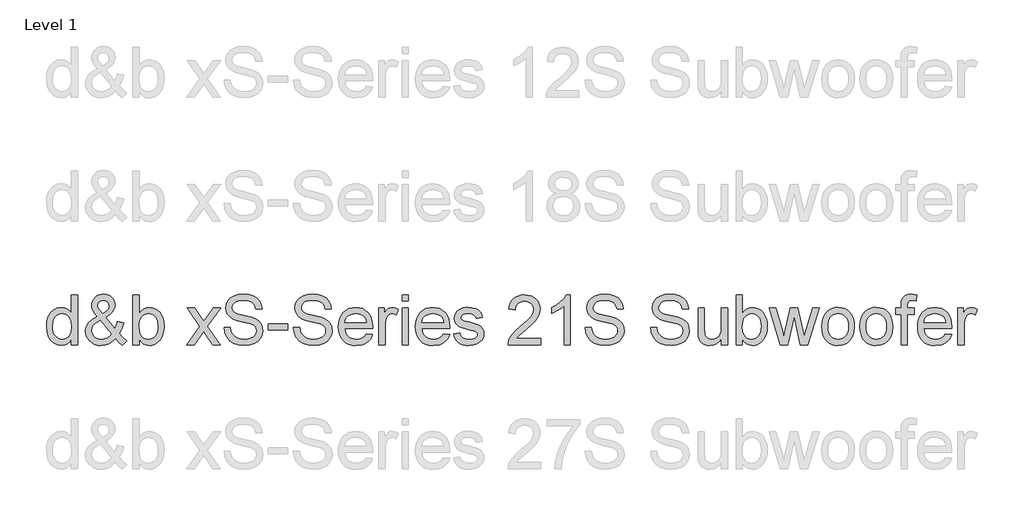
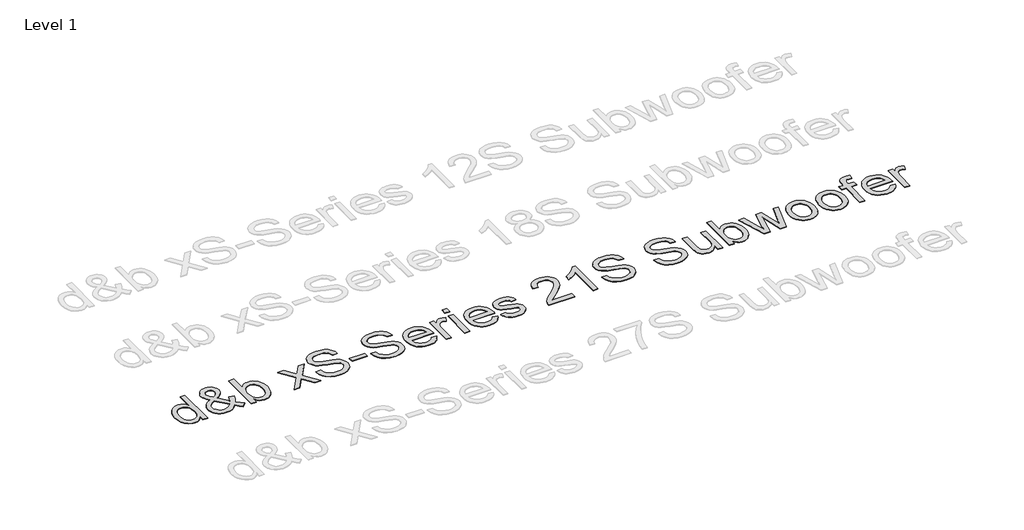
# One storey, part 21 of 55: 1 proxy.
"""IFC4 building model written with IfcOpenShell, lengths in millimetres."""

from ifc_helpers import new_model, si_unit, origin, origin_with_axes, place, context, project, spatial, polyline, outline, extrude, element, save

model = new_model("IFC4")

# Units and contexts
model_context = context("Model", 3, world=origin())
ifc_project = project(units=[si_unit("LENGTHUNIT", "METRE", prefix="MILLI")], contexts=[model_context])

# Site, building, storey
site = spatial("IfcSite", under=ifc_project)
building = spatial("IfcBuilding", under=site)
storey = spatial("IfcBuildingStorey", under=building, Name="Level 1", Elevation=0.0)

# Proxy
placement = place(None, origin())
element("IfcBuildingElementProxy", 1, Name="400mm Arial", ObjectType="400mm Arial", at=placement, inside=storey, context=model_context, shape_type="SweptSolid", body=[
    extrude(outline(polyline([(-20879.8211974, -16148.6945164), (-20879.8211974, -16101.3113154), (-20894.8491769, -16124.7883181), (-20913.0532043, -16141.5576057), (-20934.4332796, -16151.6191783), (-20958.9894028, -16154.9730358), (-20991.4611202, -16150.1169935), (-21021.1859854, -16135.5488665), (-21046.3491139, -16112.2864616), (-21065.1356211, -16081.3475858), (-21076.8342686, -16043.9830379), (-21080.7338177, -16001.4436165), (-21077.1408369, -15959.4314926), (-21066.3618945, -15921.4905962), (-21048.4092531, -15889.7791682), (-21023.2951755, -15866.4554497), (-20992.9203855, -15852.1080519), (-20959.1856065, -15847.325586), (-20934.6110892, -15850.7468885), (-20912.8815261, -15861.0107962), (-20894.4629008, -15876.7438829), (-20879.8211974, -15896.5727224), (-20879.8211974, -15746.8692758), (-20829.5930424, -15746.8692758), (-20829.5930424, -16148.6945164), (-20879.8211974, -16148.6945164)]), holes=[polyline([(-21030.5056627, -16001.2474128), (-21029.089317, -16025.6042665), (-21024.8402799, -16046.6808392), (-21017.7585515, -16064.4771307), (-21007.8441318, -16078.9931411), (-20983.1469871, -16098.3069458), (-20969.2717046, -16103.135397), (-20954.3786151, -16104.7448807), (-20939.415015, -16103.2089734), (-20925.6225058, -16098.6012514), (-20901.5507606, -16080.1703635), (-20892.0440767, -16066.2613584), (-20885.2535882, -16049.1088603), (-20879.8211974, -16005.0733855), (-20885.3516901, -15956.9298951), (-20892.2648059, -15938.3947739), (-20901.9431681, -15923.5507354), (-20913.6448812, -15912.1770504), (-20926.6280499, -15904.0529896), (-20940.8926743, -15899.1785532), (-20956.4387543, -15897.5537411), (-20971.6261493, -15899.1141738), (-20985.5014319, -15903.7954722), (-20998.064602, -15911.5976362), (-21009.3156597, -15922.5206658), (-21018.586286, -15936.8036843), (-21025.2081619, -15954.6858149), (-21030.5056627, -16001.2474128)])]), origin_with_axes(), (0.0, 0.0, 1.0), 5.0),
    extrude(outline(polyline([(-20523.809528, -16099.0549725), (-20549.3405384, -16123.5191252), (-20577.0788409, -16140.99352), (-20607.0734862, -16151.4781569), (-20639.3735254, -16154.9730358), (-20668.6814577, -16152.3855991), (-20694.8010793, -16144.623289), (-20717.7323904, -16131.6861055), (-20737.4753908, -16113.5740486), (-20750.308341, -16096.2038871), (-20759.4747341, -16077.8404442), (-20764.9745699, -16058.4837198), (-20766.8078485, -16038.1337141), (-20760.9094739, -16002.9396699), (-20743.2143499, -15971.3263438), (-20713.796053, -15943.3182613), (-20672.7281596, -15918.9399477), (-20694.6416638, -15890.5885086), (-20707.7995765, -15868.1231814), (-20714.3846642, -15848.9442668), (-20716.5796934, -15830.4520651), (-20714.8506481, -15812.8979626), (-20709.6635119, -15796.5333452), (-20701.018285, -15781.3582129), (-20688.9149674, -15767.3725657), (-20674.1935562, -15755.6555241), (-20657.6940487, -15747.2862088), (-20639.4164449, -15742.2646195), (-20619.3607448, -15740.5907564), (-20600.212487, -15742.1910431), (-20582.8913764, -15746.9919032), (-20567.397413, -15754.9933366), (-20553.7305969, -15766.1953433), (-20542.5715097, -15779.6414302), (-20534.6007332, -15794.3751041), (-20529.8182672, -15810.396365), (-20528.2241119, -15827.7052129), (-20532.9452642, -15855.68877), (-20547.108721, -15881.563137), (-20570.7144823, -15905.3283139), (-20603.7625482, -15926.9843007), (-20531.069066, -16017.5323224), (-20518.6837055, -15991.6579554), (-20509.3885538, -15961.9085647), (-20459.1603987, -15972.7978718), (-20474.6114425, -16019.3226815), (-20494.6732739, -16055.4977443), (-20466.1256311, -16088.8033276), (-20434.0463211, -16116.3209009), (-20471.7174374, -16154.9730358), (-20497.3465498, -16131.52669), (-20523.809528, -16099.0549725)]), holes=[polyline([(-20557.4584678, -16062.8553842), (-20647.1235727, -15950.9211558), (-20681.3733865, -15972.7733463), (-20702.305872, -15993.0068561), (-20713.0112381, -16012.3329235), (-20716.5796934, -16031.4627873), (-20711.6991256, -16055.1543878), (-20697.0574222, -16079.7289051), (-20686.2784798, -16090.6733944), (-20673.4639236, -16098.4908868), (-20658.6137537, -16103.1813823), (-20641.7279702, -16104.7448807), (-20619.0051256, -16101.8263502), (-20595.5710425, -16093.0707588), (-20574.1480476, -16079.6798541), (-20557.4584678, -16062.8553842)]), polyline([(-20629.1709314, -15895.2973981), (-20602.9041569, -15878.6323438), (-20587.8700461, -15864.1500559), (-20580.8067117, -15850.0601755), (-20578.452267, -15834.5723435), (-20581.5547385, -15817.0243723), (-20590.862153, -15803.0325938), (-20604.829406, -15793.8723321), (-20621.9113933, -15790.8189115), (-20639.3612626, -15793.8478066), (-20653.6473468, -15802.9344919), (-20663.1754905, -15816.3867102), (-20666.3515384, -15832.5122043), (-20662.0350563, -15850.9063041), (-20648.9875082, -15871.360543), (-20629.1709314, -15895.2973981)])]), origin_with_axes(), (0.0, 0.0, 1.0), 5.0),
    extrude(outline(polyline([(-20333.590011, -16148.6945164), (-20383.8181661, -16148.6945164), (-20383.8181661, -15746.8692758), (-20333.590011, -15746.8692758), (-20333.590011, -15895.8860093), (-20317.0721094, -15874.6408241), (-20298.4204923, -15859.4656918), (-20277.6351595, -15850.3606124), (-20254.7161112, -15847.325586), (-20228.8417442, -15850.0601755), (-20204.3898543, -15858.263944), (-20182.758393, -15871.4218567), (-20165.3453119, -15889.0188788), (-20151.6968898, -15910.883332), (-20141.3594058, -15936.8435381), (-20134.8478945, -15965.8203766), (-20132.6773907, -15996.734727), (-20134.9245365, -16032.4070178), (-20141.6659741, -16063.7873519), (-20152.9017034, -16090.8757295), (-20168.6317244, -16113.6721505), (-20187.5132678, -16131.7412878), (-20208.2035643, -16144.6478145), (-20230.702614, -16152.3917305), (-20255.0104168, -16154.9730358), (-20278.6836232, -16151.6437038), (-20299.671291, -16141.6557076), (-20317.9734203, -16125.0090473), (-20333.590011, -16101.7037229), (-20333.590011, -16148.6945164)]), holes=[polyline([(-20333.590011, -15999.0891717), (-20330.1564457, -16040.9786682), (-20319.8557498, -16069.3301073), (-20307.6849872, -16084.8240707), (-20293.5399244, -16095.8911874), (-20277.4205617, -16102.5314574), (-20259.3268989, -16104.7448807), (-20244.3050508, -16103.1139372), (-20230.3377977, -16098.2211067), (-20217.4251396, -16090.0663891), (-20205.5670767, -16078.6497845), (-20195.6526569, -16064.0019498), (-20188.5709285, -16046.1535416), (-20184.3218914, -16025.1045601), (-20182.9055458, -16000.8550053), (-20188.3379366, -15954.8942814), (-20195.1284251, -15937.1010555), (-20204.6351089, -15922.7659205), (-20216.0670419, -15911.735592), (-20228.6332778, -15903.8567859), (-20242.3338164, -15899.1295023), (-20257.1686579, -15897.5537411), (-20272.190506, -15899.1846846), (-20286.1577591, -15904.0775151), (-20299.0704171, -15912.2322327), (-20310.9284801, -15923.6488372), (-20320.8428999, -15938.1495192), (-20327.9246283, -15955.556469), (-20332.1736653, -15975.8696865), (-20333.590011, -15999.0891717)])]), origin_with_axes(), (0.0, 0.0, 1.0), 5.0),
    extrude(outline(polyline([(-19950.6003285, -16148.6945164), (-19843.2768878, -16000.2663941), (-19944.3218092, -15853.6041054), (-19884.0872638, -15853.6041054), (-19835.3306367, -15924.3355503), (-19812.4729021, -15957.5920827), (-19792.6563253, -15930.3197641), (-19737.1306695, -15853.6041054), (-19676.6999204, -15853.6041054), (-19782.8461387, -16000.364496), (-19680.623995, -16148.6945164), (-19740.9566422, -16148.6945164), (-19802.5646137, -16059.4218189), (-19813.7482263, -16043.0388074), (-19890.1695795, -16148.6945164), (-19950.6003285, -16148.6945164)])), origin_with_axes(), (0.0, 0.0, 1.0), 5.0),
    extrude(outline(polyline([(-19649.2313981, -16010.56709), (-19599.003243, -16010.56709), (-19593.2397584, -16038.4402825), (-19582.8164352, -16060.844296), (-19566.556051, -16078.6252591), (-19543.2813835, -16092.6293004), (-19514.8318425, -16101.7159856), (-19483.0468381, -16104.7448807), (-19455.063281, -16102.4517496), (-19430.5623402, -16095.5723563), (-19410.7089752, -16084.6830493), (-19396.6681457, -16070.3601769), (-19388.3172244, -16053.9158517), (-19385.533584, -16036.6621862), (-19387.6182486, -16019.849979), (-19393.8722425, -16005.3186402), (-19406.5764341, -15992.9210169), (-19428.0116917, -15982.5099565), (-19501.1466323, -15963.3310418), (-19549.1552327, -15950.639113), (-19579.8733793, -15938.5603208), (-19604.8770922, -15921.6622745), (-19622.5967416, -15901.1835101), (-19633.1549549, -15877.565486), (-19636.6743593, -15851.2496606), (-19632.3210891, -15821.8313637), (-19619.2612782, -15794.3996296), (-19597.8382834, -15771.1494875), (-19568.395461, -15754.2759667), (-19533.054264, -15744.012059), (-19493.9361452, -15740.5907564), (-19451.5561394, -15744.1714745), (-19414.4736342, -15754.9136288), (-19384.013005, -15772.59649), (-19361.4986269, -15796.999329), (-19347.249331, -15826.6015669), (-19341.5839483, -15859.8826247), (-19391.8121033, -15859.8826247), (-19401.0336787, -15829.9125049), (-19409.3968627, -15818.0544419), (-19420.2616443, -15808.2810436), (-19450.3053406, -15795.1844445), (-19491.9741079, -15790.8189115), (-19534.6238939, -15795.1353936), (-19550.9271976, -15800.5309962), (-19563.8827752, -15808.0848398), (-19580.805347, -15827.1411272), (-19586.4462043, -15849.7781326), (-19582.4485532, -15869.0796746), (-19570.4556002, -15884.6042948), (-19542.1041611, -15898.4857088), (-19488.4424407, -15912.6614283), (-19433.0639377, -15926.1259093), (-19399.5621507, -15937.8736077), (-19370.9286687, -15956.0960292), (-19350.9526764, -15978.5858819), (-19339.2172408, -16005.097911), (-19335.3054289, -16035.3868619), (-19339.805852, -16066.3502632), (-19353.3071212, -16095.4742545), (-19375.2574136, -16120.5392811), (-19405.1049061, -16139.3257883), (-19440.9979261, -16151.0612239), (-19481.0848008, -16154.9730358), (-19530.2951491, -16150.7546556), (-19570.7989567, -16138.099515), (-19603.0622077, -16116.958563), (-19627.5508858, -16087.2827487), (-19643.2717098, -16051.1322113), (-19649.2313981, -16010.56709)])), origin_with_axes(), (0.0, 0.0, 1.0), 5.0),
    extrude(outline(polyline([(-19291.3557932, -16029.4026481), (-19291.3557932, -15979.174493), (-19134.3928086, -15979.174493), (-19134.3928086, -16029.4026481), (-19291.3557932, -16029.4026481)])), origin_with_axes(), (0.0, 0.0, 1.0), 5.0),
    extrude(outline(polyline([(-19090.4431729, -16010.56709), (-19040.2150178, -16010.56709), (-19034.4515332, -16038.4402825), (-19024.02821, -16060.844296), (-19007.7678258, -16078.6252591), (-18984.4931583, -16092.6293004), (-18956.0436173, -16101.7159856), (-18924.2586129, -16104.7448807), (-18896.2750558, -16102.4517496), (-18871.774115, -16095.5723563), (-18851.9207499, -16084.6830493), (-18837.8799205, -16070.3601769), (-18829.5289992, -16053.9158517), (-18826.7453587, -16036.6621862), (-18828.8300234, -16019.849979), (-18835.0840173, -16005.3186402), (-18847.7882089, -15992.9210169), (-18869.2234665, -15982.5099565), (-18942.3584071, -15963.3310418), (-18990.3670075, -15950.639113), (-19021.0851541, -15938.5603208), (-19046.088867, -15921.6622745), (-19063.8085164, -15901.1835101), (-19074.3667297, -15877.565486), (-19077.8861341, -15851.2496606), (-19073.5328638, -15821.8313637), (-19060.473053, -15794.3996296), (-19039.0500582, -15771.1494875), (-19009.6072358, -15754.2759667), (-18974.2660388, -15744.012059), (-18935.14792, -15740.5907564), (-18892.7679141, -15744.1714745), (-18855.685409, -15754.9136288), (-18825.2247798, -15772.59649), (-18802.7104017, -15796.999329), (-18788.4611058, -15826.6015669), (-18782.7957231, -15859.8826247), (-18833.0238781, -15859.8826247), (-18842.2454535, -15829.9125049), (-18850.6086375, -15818.0544419), (-18861.4734191, -15808.2810436), (-18891.5171154, -15795.1844445), (-18933.1858827, -15790.8189115), (-18975.8356687, -15795.1353936), (-18992.1389724, -15800.5309962), (-19005.09455, -15808.0848398), (-19022.0171218, -15827.1411272), (-19027.657979, -15849.7781326), (-19023.660328, -15869.0796746), (-19011.667375, -15884.6042948), (-18983.3159359, -15898.4857088), (-18929.6542155, -15912.6614283), (-18874.2757125, -15926.1259093), (-18840.7739255, -15937.8736077), (-18812.1404435, -15956.0960292), (-18792.1644512, -15978.5858819), (-18780.4290156, -16005.097911), (-18776.5172037, -16035.3868619), (-18781.0176267, -16066.3502632), (-18794.518896, -16095.4742545), (-18816.4691883, -16120.5392811), (-18846.3166809, -16139.3257883), (-18882.2097009, -16151.0612239), (-18922.2965756, -16154.9730358), (-18971.5069238, -16150.7546556), (-19012.0107315, -16138.099515), (-19044.2739825, -16116.958563), (-19068.7626606, -16087.2827487), (-19084.4834846, -16051.1322113), (-19090.4431729, -16010.56709)])), origin_with_axes(), (0.0, 0.0, 1.0), 5.0),
    extrude(outline(polyline([(-18500.850962, -16060.795245), (-18451.6038255, -16067.0737644), (-18459.1546035, -16086.7983707), (-18469.3480004, -16104.180795), (-18482.1840164, -16119.2210372), (-18497.6626513, -16131.9190974), (-18515.6244897, -16142.0051955), (-18535.9101161, -16149.2095512), (-18583.4527326, -16154.9730358), (-18614.618469, -16152.4867667), (-18642.3874282, -16145.0279592), (-18666.7596104, -16132.5966135), (-18687.7350155, -16115.1927294), (-18704.602405, -16093.300685), (-18716.6505403, -16067.4048582), (-18723.8794215, -16037.5052491), (-18726.2890486, -16003.6018575), (-18723.8548961, -15968.5488348), (-18716.5524385, -15937.6528785), (-18704.3816758, -15910.9139888), (-18687.342608, -15888.3321657), (-18666.4223852, -15870.3917871), (-18642.6081574, -15857.5772309), (-18615.8999246, -15849.8884972), (-18586.2976867, -15847.325586), (-18557.6488763, -15849.8823658), (-18531.7407868, -15857.5527054), (-18508.5734182, -15870.3366048), (-18488.1467704, -15888.2340638), (-18471.472519, -15910.766836), (-18459.5623394, -15937.4566748), (-18452.4162316, -15968.3035801), (-18450.0341957, -16003.3075519), (-18450.3285013, -16016.8456094), (-18676.0608935, -16016.8456094), (-18673.1515601, -16036.8890467), (-18667.3666157, -16054.4431493), (-18658.7060604, -16069.507917), (-18647.1698942, -16082.0833498), (-18633.3957791, -16091.9977696), (-18618.0213774, -16099.079498), (-18582.4717139, -16104.7448807), (-18555.7389556, -16102.1206558), (-18533.2245775, -16094.2479811), (-18514.9285796, -16080.6363473), (-18500.850962, -16060.795245)]), holes=[polyline([(-18676.0608935, -15966.6174543), (-18500.2623508, -15966.6174543), (-18507.0559049, -15940.0808997), (-18520.3732332, -15921.0981887), (-18534.0707061, -15910.7974929), (-18549.65664, -15903.439853), (-18567.1310348, -15899.025269), (-18586.4938904, -15897.5537411), (-18620.3512967, -15902.2503679), (-18648.3471166, -15916.3402483), (-18667.8080741, -15938.3028034), (-18676.0608935, -15966.6174543)])]), origin_with_axes(), (0.0, 0.0, 1.0), 5.0),
    extrude(outline(polyline([(-18399.8060406, -16148.6945164), (-18399.8060406, -15853.6041054), (-18355.8564049, -15853.6041054), (-18355.8564049, -15897.2594355), (-18339.6205462, -15871.9491542), (-18324.6600117, -15857.0376707), (-18309.6504263, -15849.7536071), (-18293.2674148, -15847.325586), (-18268.2514391, -15851.2006097), (-18242.843056, -15862.8256807), (-18259.618475, -15907.8544369), (-18277.2768108, -15900.128915), (-18294.9351465, -15897.5537411), (-18309.9324692, -15900.0308132), (-18323.3356365, -15907.4620295), (-18334.1636299, -15919.2833042), (-18341.4354307, -15934.9305518), (-18347.5422718, -15962.9876853), (-18349.5778855, -15993.5954673), (-18349.5778855, -16148.6945164), (-18399.8060406, -16148.6945164)])), origin_with_axes(), (0.0, 0.0, 1.0), 5.0),
    extrude(outline(polyline([(-18211.4504591, -15797.0974309), (-18211.4504591, -15746.8692758), (-18161.222304, -15746.8692758), (-18161.222304, -15797.0974309), (-18211.4504591, -15797.0974309)])), origin_with_axes(), (0.0, 0.0, 1.0), 5.0),
    extrude(outline(polyline([(-18211.4504591, -16148.6945164), (-18211.4504591, -15853.6041054), (-18161.222304, -15853.6041054), (-18161.222304, -16148.6945164), (-18211.4504591, -16148.6945164)])), origin_with_axes(), (0.0, 0.0, 1.0), 5.0),
    extrude(outline(polyline([(-17879.2775429, -16060.795245), (-17830.0304065, -16067.0737644), (-17837.5811844, -16086.7983707), (-17847.7745814, -16104.180795), (-17860.6105973, -16119.2210372), (-17876.0892323, -16131.9190974), (-17894.0510707, -16142.0051955), (-17914.336697, -16149.2095512), (-17961.8793136, -16154.9730358), (-17993.0450499, -16152.4867667), (-18020.8140092, -16145.0279592), (-18045.1861914, -16132.5966135), (-18066.1615965, -16115.1927294), (-18083.0289859, -16093.300685), (-18095.0771213, -16067.4048582), (-18102.3060025, -16037.5052491), (-18104.7156295, -16003.6018575), (-18102.281477, -15968.5488348), (-18094.9790194, -15937.6528785), (-18082.8082567, -15910.9139888), (-18065.769189, -15888.3321657), (-18044.8489662, -15870.3917871), (-18021.0347384, -15857.5772309), (-17994.3265055, -15849.8884972), (-17964.7242676, -15847.325586), (-17936.0754573, -15849.8823658), (-17910.1673678, -15857.5527054), (-17886.9999991, -15870.3366048), (-17866.5733513, -15888.2340638), (-17849.8990999, -15910.766836), (-17837.9889203, -15937.4566748), (-17830.8428126, -15968.3035801), (-17828.4607766, -16003.3075519), (-17828.7550822, -16016.8456094), (-18054.4874745, -16016.8456094), (-18051.578141, -16036.8890467), (-18045.7931967, -16054.4431493), (-18037.1326413, -16069.507917), (-18025.5964751, -16082.0833498), (-18011.8223601, -16091.9977696), (-17996.4479584, -16099.079498), (-17960.8982949, -16104.7448807), (-17934.1655366, -16102.1206558), (-17911.6511585, -16094.2479811), (-17893.3551606, -16080.6363473), (-17879.2775429, -16060.795245)]), holes=[polyline([(-18054.4874745, -15966.6174543), (-17878.6889317, -15966.6174543), (-17885.4824859, -15940.0808997), (-17898.7998141, -15921.0981887), (-17912.4972871, -15910.7974929), (-17928.0832209, -15903.439853), (-17945.5576157, -15899.025269), (-17964.9204714, -15897.5537411), (-17998.7778777, -15902.2503679), (-18026.7736975, -15916.3402483), (-18046.234655, -15938.3028034), (-18054.4874745, -15966.6174543)])]), origin_with_axes(), (0.0, 0.0, 1.0), 5.0),
    extrude(outline(polyline([(-17797.0681797, -16060.795245), (-17746.8400246, -16054.5167257), (-17738.918299, -16076.0010342), (-17723.5898825, -16091.7954345), (-17700.7566734, -16101.5075192), (-17670.3205696, -16104.7448807), (-17640.2523479, -16101.7772993), (-17619.1113959, -16092.874555), (-17606.6034081, -16079.9741597), (-17602.4340788, -16065.0136253), (-17606.6279335, -16052.2113318), (-17619.2094978, -16042.4501962), (-17670.9091808, -16028.1273239), (-17746.545719, -16003.5528066), (-17765.6878455, -15991.2042343), (-17779.5569967, -15974.858011), (-17787.9814944, -15955.556469), (-17790.7896603, -15934.3419406), (-17788.5333174, -15914.880983), (-17781.7642887, -15896.9160789), (-17771.0957109, -15881.1584668), (-17757.1407205, -15868.3193852), (-17725.2085633, -15853.4569526), (-17704.3251287, -15848.8584276), (-17681.9946916, -15847.325586), (-17649.302245, -15849.7903953), (-17620.8772295, -15857.1848234), (-17598.0194949, -15868.785369), (-17582.0288908, -15883.8685308), (-17571.4338893, -15903.5502176), (-17564.7629625, -15928.946338), (-17614.9911176, -15935.2248574), (-17621.3309506, -15919.4181943), (-17633.8757267, -15907.5110804), (-17652.748073, -15900.0430759), (-17678.070617, -15897.5537411), (-17706.9125654, -15899.9327113), (-17726.140531, -15907.069622), (-17736.9562617, -15917.3703179), (-17740.5615053, -15929.2406436), (-17734.5772915, -15943.8578215), (-17715.8398352, -15954.9433323), (-17672.5769125, -15965.6364356), (-17598.8533607, -15989.2789852), (-17579.3801404, -16000.5852252), (-17564.6158097, -16016.0607944), (-17555.3083952, -16035.7547439), (-17552.2059237, -16059.7161245), (-17555.8479555, -16084.4868455), (-17566.7740507, -16107.7860386), (-17584.5672766, -16127.7865564), (-17608.8107, -16142.6612517), (-17638.0941069, -16151.8950898), (-17671.0072827, -16154.9730358), (-17698.040478, -16153.4892451), (-17721.6523707, -16149.037873), (-17741.8429609, -16141.6189194), (-17758.6122485, -16131.2323844), (-17772.3097214, -16117.9273189), (-17783.2848676, -16101.7527738), (-17791.5376871, -16082.7087492), (-17797.0681797, -16060.795245)])), origin_with_axes(), (0.0, 0.0, 1.0), 5.0),
    extrude(outline(polyline([(-17093.8740087, -16098.4663614), (-17093.8740087, -16148.6945164), (-17357.5718228, -16148.6945164), (-17356.4681768, -16131.0116552), (-17352.1762202, -16114.0645579), (-17339.778597, -16087.0007058), (-17321.6174891, -16060.7461941), (-17295.3629774, -16033.2654091), (-17258.6851425, -16002.522737), (-17204.4961246, -15954.3792466), (-17172.0121444, -15918.8418458), (-17155.7885485, -15889.9998974), (-17150.3806831, -15861.9427639), (-17155.4942429, -15836.7918982), (-17170.8349221, -15815.8839381), (-17194.4161579, -15801.7940577), (-17224.2513878, -15797.0974309), (-17255.582671, -15801.6836931), (-17279.9241964, -15815.4424797), (-17295.6327576, -15837.2946702), (-17301.0651483, -15866.1611441), (-17351.2933034, -15859.8826247), (-17346.9737557, -15833.9530755), (-17339.1164094, -15811.2976759), (-17327.7212646, -15791.9164261), (-17312.7883213, -15775.8093261), (-17294.6609359, -15763.1480541), (-17273.6824652, -15754.1042884), (-17249.8529089, -15748.678029), (-17223.1722672, -15746.8692758), (-17196.2525022, -15748.8803641), (-17172.2941873, -15754.9136288), (-17151.2973224, -15764.96907), (-17133.2619076, -15779.0466877), (-17118.7765541, -15796.1041495), (-17108.4298729, -15815.0991232), (-17102.2218643, -15836.0316087), (-17100.152528, -15858.9016061), (-17102.3843455, -15882.9243004), (-17109.0797978, -15906.5300617), (-17120.9623862, -15930.5404933), (-17138.7556121, -15955.7771982), (-17167.1193139, -15985.9067336), (-17210.7133303, -16024.5956567), (-17268.495329, -16072.9108254), (-17291.1568599, -16098.4663614), (-17093.8740087, -16098.4663614)])), origin_with_axes(), (0.0, 0.0, 1.0), 5.0),
    extrude(outline(polyline([(-16855.2902721, -16148.6945164), (-16905.5184271, -16148.6945164), (-16905.5184271, -15835.5533621), (-16926.4877009, -15852.5127221), (-16953.0978318, -15869.4475566), (-17005.9747373, -15894.8068888), (-17005.9747373, -15847.325586), (-16966.5255247, -15825.8658029), (-16932.3492873, -15800.3347925), (-16905.4080625, -15773.1851012), (-16887.6638876, -15746.8692758), (-16855.2902721, -15746.8692758), (-16855.2902721, -16148.6945164)])), origin_with_axes(), (0.0, 0.0, 1.0), 5.0),
    extrude(outline(polyline([(-16735.9984038, -16010.56709), (-16685.7702487, -16010.56709), (-16680.0067641, -16038.4402825), (-16669.5834409, -16060.844296), (-16653.3230567, -16078.6252591), (-16630.0483891, -16092.6293004), (-16601.5988482, -16101.7159856), (-16569.8138438, -16104.7448807), (-16541.8302867, -16102.4517496), (-16517.3293458, -16095.5723563), (-16497.4759808, -16084.6830493), (-16483.4351513, -16070.3601769), (-16475.08423, -16053.9158517), (-16472.3005896, -16036.6621862), (-16474.3852543, -16019.849979), (-16480.6392482, -16005.3186402), (-16493.3434397, -15992.9210169), (-16514.7786973, -15982.5099565), (-16587.913638, -15963.3310418), (-16635.9222383, -15950.639113), (-16666.6403849, -15938.5603208), (-16691.6440979, -15921.6622745), (-16709.3637473, -15901.1835101), (-16719.9219606, -15877.565486), (-16723.441365, -15851.2496606), (-16719.0880947, -15821.8313637), (-16706.0282839, -15794.3996296), (-16684.605289, -15771.1494875), (-16655.1624667, -15754.2759667), (-16619.8212697, -15744.012059), (-16580.7031509, -15740.5907564), (-16538.323145, -15744.1714745), (-16501.2406399, -15754.9136288), (-16470.7800107, -15772.59649), (-16448.2656326, -15796.999329), (-16434.0163367, -15826.6015669), (-16428.3509539, -15859.8826247), (-16478.579109, -15859.8826247), (-16487.8006843, -15829.9125049), (-16496.1638684, -15818.0544419), (-16507.02865, -15808.2810436), (-16537.0723462, -15795.1844445), (-16578.7411136, -15790.8189115), (-16621.3908995, -15795.1353936), (-16637.6942033, -15800.5309962), (-16650.6497809, -15808.0848398), (-16667.5723527, -15827.1411272), (-16673.2132099, -15849.7781326), (-16669.2155589, -15869.0796746), (-16657.2226059, -15884.6042948), (-16628.8711668, -15898.4857088), (-16575.2094464, -15912.6614283), (-16519.8309434, -15926.1259093), (-16486.3291564, -15937.8736077), (-16457.6956744, -15956.0960292), (-16437.7196821, -15978.5858819), (-16425.9842464, -16005.097911), (-16422.0724345, -16035.3868619), (-16426.5728576, -16066.3502632), (-16440.0741268, -16095.4742545), (-16462.0244192, -16120.5392811), (-16491.8719118, -16139.3257883), (-16527.7649318, -16151.0612239), (-16567.8518065, -16154.9730358), (-16617.0621547, -16150.7546556), (-16657.5659624, -16138.099515), (-16689.8292134, -16116.958563), (-16714.3178915, -16087.2827487), (-16730.0387154, -16051.1322113), (-16735.9984038, -16010.56709)])), origin_with_axes(), (0.0, 0.0, 1.0), 5.0),
    extrude(outline(polyline([(-16208.6027755, -16010.56709), (-16158.3746204, -16010.56709), (-16152.6111358, -16038.4402825), (-16142.1878126, -16060.844296), (-16125.9274284, -16078.6252591), (-16102.6527609, -16092.6293004), (-16074.2032199, -16101.7159856), (-16042.4182155, -16104.7448807), (-16014.4346584, -16102.4517496), (-15989.9337175, -16095.5723563), (-15970.0803525, -16084.6830493), (-15956.0395231, -16070.3601769), (-15947.6886018, -16053.9158517), (-15944.9049613, -16036.6621862), (-15946.989626, -16019.849979), (-15953.2436199, -16005.3186402), (-15965.9478115, -15992.9210169), (-15987.383069, -15982.5099565), (-16060.5180097, -15963.3310418), (-16108.5266101, -15950.639113), (-16139.2447566, -15938.5603208), (-16164.2484696, -15921.6622745), (-16181.968119, -15901.1835101), (-16192.5263323, -15877.565486), (-16196.0457367, -15851.2496606), (-16191.6924664, -15821.8313637), (-16178.6326556, -15794.3996296), (-16157.2096607, -15771.1494875), (-16127.7668384, -15754.2759667), (-16092.4256414, -15744.012059), (-16053.3075226, -15740.5907564), (-16010.9275167, -15744.1714745), (-15973.8450116, -15754.9136288), (-15943.3843824, -15772.59649), (-15920.8700043, -15796.999329), (-15906.6207084, -15826.6015669), (-15900.9553256, -15859.8826247), (-15951.1834807, -15859.8826247), (-15960.4050561, -15829.9125049), (-15968.7682401, -15818.0544419), (-15979.6330217, -15808.2810436), (-16009.6767179, -15795.1844445), (-16051.3454853, -15790.8189115), (-16093.9952712, -15795.1353936), (-16110.298575, -15800.5309962), (-16123.2541526, -15808.0848398), (-16140.1767244, -15827.1411272), (-16145.8175816, -15849.7781326), (-16141.8199306, -15869.0796746), (-16129.8269776, -15884.6042948), (-16101.4755385, -15898.4857088), (-16047.8138181, -15912.6614283), (-15992.4353151, -15926.1259093), (-15958.9335281, -15937.8736077), (-15930.3000461, -15956.0960292), (-15910.3240538, -15978.5858819), (-15898.5886181, -16005.097911), (-15894.6768063, -16035.3868619), (-15899.1772293, -16066.3502632), (-15912.6784986, -16095.4742545), (-15934.6287909, -16120.5392811), (-15964.4762835, -16139.3257883), (-16000.3693035, -16151.0612239), (-16040.4561782, -16154.9730358), (-16089.6665264, -16150.7546556), (-16130.1703341, -16138.099515), (-16162.4335851, -16116.958563), (-16186.9222632, -16087.2827487), (-16202.6430872, -16051.1322113), (-16208.6027755, -16010.56709)])), origin_with_axes(), (0.0, 0.0, 1.0), 5.0),
    extrude(outline(polyline([(-15637.2575115, -16148.6945164), (-15637.2575115, -16097.975852), (-15655.4308821, -16122.9121199), (-15676.5963595, -16140.7237399), (-15700.7539439, -16151.4107118), (-15727.9036351, -16154.9730358), (-15752.3677878, -16152.4714382), (-15775.1396833, -16144.9666455), (-15794.2450216, -16133.684931), (-15807.7095026, -16119.852568), (-15816.7716624, -16103.0526236), (-15822.6700371, -16082.8681648), (-15825.613093, -16036.1716768), (-15825.613093, -15853.6041054), (-15775.384938, -15853.6041054), (-15775.384938, -16012.5291273), (-15772.3437801, -16063.738301), (-15765.0229284, -16080.8202883), (-15752.4781524, -16093.8065227), (-15735.5433179, -16102.0102912), (-15715.0522907, -16104.7448807), (-15693.3840412, -16101.9489776), (-15673.1137433, -16093.5612681), (-15656.399638, -16080.3543045), (-15645.3999663, -16063.1006389), (-15639.2931252, -16039.4703521), (-15637.2575115, -16007.1335247), (-15637.2575115, -15853.6041054), (-15587.0293564, -15853.6041054), (-15587.0293564, -16148.6945164), (-15637.2575115, -16148.6945164)])), origin_with_axes(), (0.0, 0.0, 1.0), 5.0),
    extrude(outline(polyline([(-15467.7374881, -16148.6945164), (-15517.9656432, -16148.6945164), (-15517.9656432, -15746.8692758), (-15467.7374881, -15746.8692758), (-15467.7374881, -15895.8860093), (-15451.2195865, -15874.6408241), (-15432.5679694, -15859.4656918), (-15411.7826367, -15850.3606124), (-15388.8635884, -15847.325586), (-15362.9892214, -15850.0601755), (-15338.5373314, -15858.263944), (-15316.9058701, -15871.4218567), (-15299.492789, -15889.0188788), (-15285.844367, -15910.883332), (-15275.5068829, -15936.8435381), (-15268.9953716, -15965.8203766), (-15266.8248678, -15996.734727), (-15269.0720137, -16032.4070178), (-15275.8134512, -16063.7873519), (-15287.0491805, -16090.8757295), (-15302.7792015, -16113.6721505), (-15321.6607449, -16131.7412878), (-15342.3510414, -16144.6478145), (-15364.8500911, -16152.3917305), (-15389.1578939, -16154.9730358), (-15412.8311003, -16151.6437038), (-15433.8187682, -16141.6557076), (-15452.1208974, -16125.0090473), (-15467.7374881, -16101.7037229), (-15467.7374881, -16148.6945164)]), holes=[polyline([(-15467.7374881, -15999.0891717), (-15464.3039228, -16040.9786682), (-15454.003227, -16069.3301073), (-15441.8324643, -16084.8240707), (-15427.6874016, -16095.8911874), (-15411.5680388, -16102.5314574), (-15393.474376, -16104.7448807), (-15378.4525279, -16103.1139372), (-15364.4852748, -16098.2211067), (-15351.5726168, -16090.0663891), (-15339.7145538, -16078.6497845), (-15329.800134, -16064.0019498), (-15322.7184056, -16046.1535416), (-15318.4693686, -16025.1045601), (-15317.0530229, -16000.8550053), (-15322.4854137, -15954.8942814), (-15329.2759022, -15937.1010555), (-15338.7825861, -15922.7659205), (-15350.2145191, -15911.735592), (-15362.7807549, -15903.8567859), (-15376.4812935, -15899.1295023), (-15391.316135, -15897.5537411), (-15406.3379831, -15899.1846846), (-15420.3052362, -15904.0775151), (-15433.2178942, -15912.2322327), (-15445.0759572, -15923.6488372), (-15454.990377, -15938.1495192), (-15462.0721054, -15955.556469), (-15466.3211424, -15975.8696865), (-15467.7374881, -15999.0891717)])]), origin_with_axes(), (0.0, 0.0, 1.0), 5.0),
    extrude(outline(polyline([(-15160.9729551, -16148.6945164), (-15251.1285694, -15853.6041054), (-15199.0364788, -15853.6041054), (-15148.0235088, -16025.7728791), (-15132.8177197, -16087.2827487), (-15120.3587828, -16028.029222), (-15079.8427124, -15853.6041054), (-15020.1967783, -15853.6041054), (-14979.6807079, -16027.5387127), (-14968.5951971, -16081.200433), (-14952.7026949, -16024.5956567), (-14901.6897249, -15853.6041054), (-14849.3033288, -15853.6041054), (-14939.7532486, -16148.6945164), (-15000.3802014, -16148.6945164), (-15039.0323364, -15975.6428259), (-15050.2159491, -15921.6867999), (-15099.9535948, -16148.6945164), (-15160.9729551, -16148.6945164)])), origin_with_axes(), (0.0, 0.0, 1.0), 5.0),
    extrude(outline(polyline([(-14827.3285109, -16001.1493109), (-14824.6123155, -15962.932503), (-14816.4637293, -15930.000933), (-14802.8827523, -15902.3546011), (-14783.8693846, -15879.9935072), (-14764.7272581, -15865.7012916), (-14743.5985688, -15855.4925663), (-14720.4833168, -15849.3673311), (-14695.381502, -15847.325586), (-14667.6707907, -15849.8118551), (-14642.6149611, -15857.2706626), (-14620.2140133, -15869.7020083), (-14600.4679472, -15887.1058924), (-14584.3516502, -15908.8937036), (-14572.8400094, -15934.4768306), (-14565.9330249, -15963.8552736), (-14563.6306968, -15997.0290325), (-14567.7019242, -16047.7722224), (-14579.9156064, -16086.3998319), (-14599.9161242, -16115.3276195), (-14627.3478583, -16136.9713435), (-14659.9299404, -16150.4726127), (-14695.381502, -16154.9730358), (-14723.4968835, -16152.4959637), (-14748.7857049, -16145.0647474), (-14771.2479664, -16132.6793869), (-14790.8836679, -16115.3398822), (-14806.8282867, -16093.3405389), (-14818.2173002, -16066.9756626), (-14825.0507082, -16036.2452532), (-14827.3285109, -16001.1493109)]), holes=[polyline([(-14777.1003558, -16001.051209), (-14775.647222, -16025.4141942), (-14771.2878203, -16046.5091609), (-14764.0221509, -16064.3361093), (-14753.8502137, -16078.8950392), (-14741.477116, -16090.2043449), (-14727.6079648, -16098.2824204), (-14712.2427601, -16103.1292656), (-14695.381502, -16104.7448807), (-14678.606083, -16103.1200686), (-14663.302192, -16098.2456322), (-14649.469829, -16090.1215714), (-14637.1089939, -16078.7478864), (-14626.9370568, -16064.0448693), (-14619.6713874, -16045.9328124), (-14615.3119857, -16024.4117157), (-14613.8588518, -15999.4815792), (-14615.3211828, -15975.8911462), (-14619.7081756, -15955.3480025), (-14627.0198302, -15937.8521479), (-14637.2561467, -15923.4035826), (-14649.662967, -15912.0942769), (-14663.486133, -15904.0162014), (-14678.7256446, -15899.1693561), (-14695.381502, -15897.5537411), (-14712.2427601, -15899.1632248), (-14727.6079648, -15903.991676), (-14741.477116, -15912.0390946), (-14753.8502137, -15923.3054807), (-14764.0221509, -15937.8214911), (-14771.2878203, -15955.6177826), (-14775.647222, -15976.6943553), (-14777.1003558, -16001.051209)])]), origin_with_axes(), (0.0, 0.0, 1.0), 5.0),
    extrude(outline(polyline([(-14519.6810611, -16001.1493109), (-14516.9648657, -15962.932503), (-14508.8162795, -15930.000933), (-14495.2353025, -15902.3546011), (-14476.2219347, -15879.9935072), (-14457.0798082, -15865.7012916), (-14435.951119, -15855.4925663), (-14412.8358669, -15849.3673311), (-14387.7340521, -15847.325586), (-14360.0233409, -15849.8118551), (-14334.9675113, -15857.2706626), (-14312.5665635, -15869.7020083), (-14292.8204974, -15887.1058924), (-14276.7042003, -15908.8937036), (-14265.1925596, -15934.4768306), (-14258.2855751, -15963.8552736), (-14255.9832469, -15997.0290325), (-14260.0544744, -16047.7722224), (-14272.2681566, -16086.3998319), (-14292.2686744, -16115.3276195), (-14319.7004085, -16136.9713435), (-14352.2824905, -16150.4726127), (-14387.7340521, -16154.9730358), (-14415.8494336, -16152.4959637), (-14441.1382551, -16145.0647474), (-14463.6005166, -16132.6793869), (-14483.2362181, -16115.3398822), (-14499.1808369, -16093.3405389), (-14510.5698503, -16066.9756626), (-14517.4032584, -16036.2452532), (-14519.6810611, -16001.1493109)]), holes=[polyline([(-14469.452906, -16001.051209), (-14467.9997721, -16025.4141942), (-14463.6403705, -16046.5091609), (-14456.3747011, -16064.3361093), (-14446.2027639, -16078.8950392), (-14433.8296661, -16090.2043449), (-14419.9605149, -16098.2824204), (-14404.5953103, -16103.1292656), (-14387.7340521, -16104.7448807), (-14370.9586332, -16103.1200686), (-14355.6547422, -16098.2456322), (-14341.8223791, -16090.1215714), (-14329.4615441, -16078.7478864), (-14319.2896069, -16064.0448693), (-14312.0239375, -16045.9328124), (-14307.6645359, -16024.4117157), (-14306.211402, -15999.4815792), (-14307.6737329, -15975.8911462), (-14312.0607257, -15955.3480025), (-14319.3723804, -15937.8521479), (-14329.6086969, -15923.4035826), (-14342.0155172, -15912.0942769), (-14355.8386832, -15904.0162014), (-14371.0781948, -15899.1693561), (-14387.7340521, -15897.5537411), (-14404.5953103, -15899.1632248), (-14419.9605149, -15903.991676), (-14433.8296661, -15912.0390946), (-14446.2027639, -15923.3054807), (-14456.3747011, -15937.8214911), (-14463.6403705, -15955.6177826), (-14467.9997721, -15976.6943553), (-14469.452906, -16001.051209)])]), origin_with_axes(), (0.0, 0.0, 1.0), 5.0),
    extrude(outline(polyline([(-14186.9195337, -16148.6945164), (-14186.9195337, -15903.8322604), (-14230.8691694, -15903.8322604), (-14230.8691694, -15853.6041054), (-14186.9195337, -15853.6041054), (-14186.9195337, -15823.8792402), (-14185.5951585, -15799.2801974), (-14181.622033, -15781.9897436), (-14171.5175408, -15765.2879011), (-14155.9193443, -15752.0686747), (-14134.0916792, -15743.460236), (-14105.2987817, -15740.5907564), (-14059.4852106, -15746.0844609), (-14066.8428505, -15793.1733563), (-14095.7829008, -15790.8189115), (-14114.8759763, -15792.9035762), (-14127.4207524, -15799.1575701), (-14134.3737221, -15811.1014722), (-14136.6913786, -15830.2558614), (-14136.6913786, -15853.6041054), (-14080.1847042, -15853.6041054), (-14080.1847042, -15903.8322604), (-14136.6913786, -15903.8322604), (-14136.6913786, -16148.6945164), (-14186.9195337, -16148.6945164)])), origin_with_axes(), (0.0, 0.0, 1.0), 5.0),
    extrude(outline(polyline([(-13829.63254, -16060.795245), (-13780.3854036, -16067.0737644), (-13787.9361815, -16086.7983707), (-13798.1295785, -16104.180795), (-13810.9655944, -16119.2210372), (-13826.4442294, -16131.9190974), (-13844.4060678, -16142.0051955), (-13864.6916941, -16149.2095512), (-13912.2343106, -16154.9730358), (-13943.400047, -16152.4867667), (-13971.1690063, -16145.0279592), (-13995.5411885, -16132.5966135), (-14016.5165935, -16115.1927294), (-14033.383983, -16093.300685), (-14045.4321184, -16067.4048582), (-14052.6609996, -16037.5052491), (-14055.0706266, -16003.6018575), (-14052.6364741, -15968.5488348), (-14045.3340165, -15937.6528785), (-14033.1632538, -15910.9139888), (-14016.1241861, -15888.3321657), (-13995.2039633, -15870.3917871), (-13971.3897355, -15857.5772309), (-13944.6815026, -15849.8884972), (-13915.0792647, -15847.325586), (-13886.4304544, -15849.8823658), (-13860.5223649, -15857.5527054), (-13837.3549962, -15870.3366048), (-13816.9283484, -15888.2340638), (-13800.254097, -15910.766836), (-13788.3439174, -15937.4566748), (-13781.1978096, -15968.3035801), (-13778.8157737, -16003.3075519), (-13779.1100793, -16016.8456094), (-14004.8424716, -16016.8456094), (-14001.9331381, -16036.8890467), (-13996.1481937, -16054.4431493), (-13987.4876384, -16069.507917), (-13975.9514722, -16082.0833498), (-13962.1773572, -16091.9977696), (-13946.8029555, -16099.079498), (-13911.253292, -16104.7448807), (-13884.5205337, -16102.1206558), (-13862.0061556, -16094.2479811), (-13843.7101577, -16080.6363473), (-13829.63254, -16060.795245)]), holes=[polyline([(-14004.8424716, -15966.6174543), (-13829.0439288, -15966.6174543), (-13835.837483, -15940.0808997), (-13849.1548112, -15921.0981887), (-13862.8522842, -15910.7974929), (-13878.438218, -15903.439853), (-13895.9126128, -15899.025269), (-13915.2754685, -15897.5537411), (-13949.1328748, -15902.2503679), (-13977.1286946, -15916.3402483), (-13996.5896521, -15938.3028034), (-14004.8424716, -15966.6174543)])]), origin_with_axes(), (0.0, 0.0, 1.0), 5.0),
    extrude(outline(polyline([(-13728.5876187, -16148.6945164), (-13728.5876187, -15853.6041054), (-13684.637983, -15853.6041054), (-13684.637983, -15897.2594355), (-13668.4021242, -15871.9491542), (-13653.4415898, -15857.0376707), (-13638.4320044, -15849.7536071), (-13622.0489929, -15847.325586), (-13597.0330172, -15851.2006097), (-13571.624634, -15862.8256807), (-13588.400053, -15907.8544369), (-13606.0583888, -15900.128915), (-13623.7167246, -15897.5537411), (-13638.7140472, -15900.0308132), (-13652.1172146, -15907.4620295), (-13662.945208, -15919.2833042), (-13670.2170088, -15934.9305518), (-13676.3238499, -15962.9876853), (-13678.3594636, -15993.5954673), (-13678.3594636, -16148.6945164), (-13728.5876187, -16148.6945164)])), origin_with_axes(), (0.0, 0.0, 1.0), 5.0),
])

save(model, "model.ifc")
